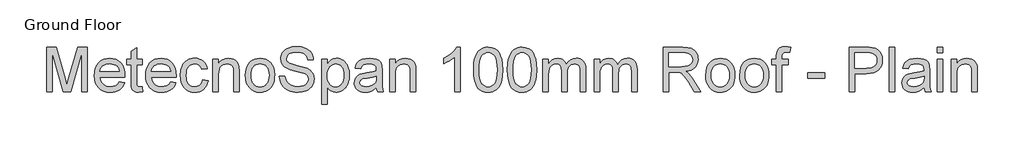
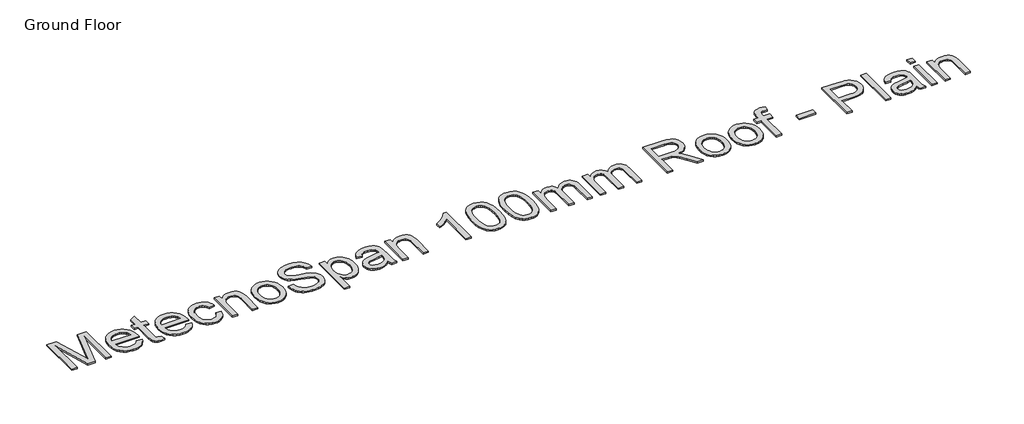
# One storey, part 8 of 14: 1 proxy.
"""IFC4 building model written with IfcOpenShell, lengths in millimetres."""

from ifc_helpers import new_model, si_unit, origin, origin_with_axes, place, context, project, spatial, polyline, outline, extrude, element, save

model = new_model("IFC4")

# Units and contexts
model_context = context("Model", 3, world=origin())
ifc_project = project(units=[si_unit("LENGTHUNIT", "METRE", prefix="MILLI")], contexts=[model_context])

# Site, building, storey
site = spatial("IfcSite", under=ifc_project)
building = spatial("IfcBuilding", under=site)
storey = spatial("IfcBuildingStorey", under=building, Name="Ground Floor", Elevation=0.0)

# Proxy
placement = place(None, origin())
element("IfcBuildingElementProxy", 1, Name="600mm Arial", ObjectType="600mm Arial", at=placement, inside=storey, context=model_context, shape_type="SweptSolid", body=[
    extrude(outline(polyline([(72437.1624792, -15207.4945964), (72437.1624792, -14604.7567355), (72566.8040943, -14604.7567355), (72690.1181391, -15029.5868635), (72714.986962, -15118.3200007), (72741.915924, -15022.2292236), (72863.1698296, -14604.7567355), (72992.8114447, -14604.7567355), (72992.8114447, -15207.4945964), (72917.4692121, -15207.4945964), (72917.4692121, -14680.0989681), (72766.0489829, -15207.4945964), (72663.924941, -15207.4945964), (72512.5047118, -14680.0989681), (72512.5047118, -15207.4945964), (72437.1624792, -15207.4945964)])), origin_with_axes(), (0.0, 0.0, 1.0), 20.0),
    extrude(outline(polyline([(73425.1463654, -15075.6456893), (73499.0170701, -15085.0634684), (73487.6909031, -15114.6503778), (73472.4008077, -15140.7240143), (73453.1467838, -15163.2843776), (73429.9288314, -15182.3314679), (73402.9860738, -15197.460615), (73372.5576342, -15208.2671486), (73338.6435128, -15214.7510687), (73301.2437095, -15216.9123755), (73254.4951049, -15213.1829717), (73212.841666, -15201.9947605), (73176.2833928, -15183.3477419), (73144.8202851, -15157.2419158), (73119.5192009, -15124.4038492), (73101.4469979, -15085.5601091), (73090.6036761, -15040.7106953), (73086.9892355, -14989.855608), (73090.6404643, -14937.2760739), (73101.5941507, -14890.9321395), (73119.8502947, -14850.823805), (73145.4088963, -14816.9510703), (73176.7892305, -14790.0405023), (73212.5105722, -14770.8186681), (73252.5729215, -14759.2855676), (73296.9762783, -14755.4412007), (73339.9494939, -14759.2763705), (73378.8116281, -14770.7818799), (73413.5626811, -14789.9577289), (73444.2026528, -14816.8039175), (73469.2140299, -14850.6030758), (73487.0792993, -14890.6378339), (73497.798461, -14936.9081919), (73501.3715148, -14989.4141496), (73500.9300564, -15009.7212358), (73162.3314681, -15009.7212358), (73166.6954683, -15039.7863918), (73175.3728848, -15066.1175456), (73188.3637178, -15088.7146972), (73205.6679671, -15107.5778465), (73226.3291397, -15122.4494761), (73249.3907422, -15133.0720688), (73274.8527748, -15139.4456243), (73302.7152374, -15141.5701428), (73342.8143749, -15137.6338055), (73376.5859421, -15125.8247934), (73404.0299389, -15105.4073427), (73425.1463654, -15075.6456893)]), holes=[polyline([(73162.3314681, -14934.3790032), (73426.0292822, -14934.3790032), (73415.838951, -14894.5741713), (73407.0741624, -14878.9207924), (73395.8629586, -14866.1001049), (73375.3167492, -14850.6490611), (73351.9378484, -14839.6126012), (73325.7262562, -14832.9907253), (73296.6819727, -14830.7834333), (73270.1898705, -14832.5446684), (73245.8958633, -14837.8283735), (73223.799951, -14846.6345488), (73203.9021335, -14858.9631941), (73187.2048895, -14874.2440925), (73174.7106972, -14891.9070268), (73166.4195568, -14911.951997), (73162.3314681, -14934.3790032)])]), origin_with_axes(), (0.0, 0.0, 1.0), 20.0),
    extrude(outline(polyline([(73736.8159918, -15144.6603516), (73746.2337708, -15209.7018883), (73689.8742492, -15216.9123755), (73653.711449, -15213.7853785), (73626.7456988, -15204.4043876), (73607.6894114, -15189.9466252), (73595.255, -15171.5893136), (73588.4123949, -15140.0618267), (73586.1315265, -15086.093538), (73586.1315265, -14840.2012124), (73529.6248521, -14840.2012124), (73529.6248521, -14764.8589798), (73586.1315265, -14764.8589798), (73586.1315265, -14657.2902844), (73661.4737591, -14612.9972922), (73661.4737591, -14764.8589798), (73736.8159918, -14764.8589798), (73736.8159918, -14840.2012124), (73661.4737591, -14840.2012124), (73661.4737591, -15083.886246), (73665.4468847, -15122.7345847), (73678.3227545, -15136.4933713), (73689.1936675, -15140.30095), (73704.0009178, -15141.5701428), (73736.8159918, -15144.6603516)])), origin_with_axes(), (0.0, 0.0, 1.0), 20.0),
    extrude(outline(polyline([(74122.0620171, -15075.6456893), (74195.9327217, -15085.0634684), (74184.6065548, -15114.6503778), (74169.3164594, -15140.7240143), (74150.0624355, -15163.2843776), (74126.844483, -15182.3314679), (74099.9017254, -15197.460615), (74069.4732859, -15208.2671486), (74035.5591645, -15214.7510687), (73998.1593611, -15216.9123755), (73951.4107566, -15213.1829717), (73909.7573177, -15201.9947605), (73873.1990444, -15183.3477419), (73841.7359368, -15157.2419158), (73816.4348526, -15124.4038492), (73798.3626495, -15085.5601091), (73787.5193277, -15040.7106953), (73783.9048871, -14989.855608), (73787.5561159, -14937.2760739), (73798.5098023, -14890.9321395), (73816.7659464, -14850.823805), (73842.324548, -14816.9510703), (73873.7048822, -14790.0405023), (73909.4262239, -14770.8186681), (73949.4885732, -14759.2855676), (73993.89193, -14755.4412007), (74036.8651455, -14759.2763705), (74075.7272798, -14770.7818799), (74110.4783328, -14789.9577289), (74141.1183045, -14816.8039175), (74166.1296816, -14850.6030758), (74183.994951, -14890.6378339), (74194.7141126, -14936.9081919), (74198.2871665, -14989.4141496), (74197.8457081, -15009.7212358), (73859.2471197, -15009.7212358), (73863.6111199, -15039.7863918), (73872.2885365, -15066.1175456), (73885.2793694, -15088.7146972), (73902.5836188, -15107.5778465), (73923.2447913, -15122.4494761), (73946.3063939, -15133.0720688), (73971.7684265, -15139.4456243), (73999.6308891, -15141.5701428), (74039.7300266, -15137.6338055), (74073.5015937, -15125.8247934), (74100.9455906, -15105.4073427), (74122.0620171, -15075.6456893)]), holes=[polyline([(73859.2471197, -14934.3790032), (74122.9449339, -14934.3790032), (74112.7546026, -14894.5741713), (74103.9898141, -14878.9207924), (74092.7786103, -14866.1001049), (74072.2324009, -14850.6490611), (74048.8535001, -14839.6126012), (74022.6419079, -14832.9907253), (73993.5976244, -14830.7834333), (73967.1055222, -14832.5446684), (73942.811515, -14837.8283735), (73920.7156026, -14846.6345488), (73900.8177852, -14858.9631941), (73884.1205411, -14874.2440925), (73871.6263489, -14891.9070268), (73863.3352084, -14911.951997), (73859.2471197, -14934.3790032)])]), origin_with_axes(), (0.0, 0.0, 1.0), 20.0),
    extrude(outline(polyline([(74556.1627714, -15047.3923521), (74631.505004, -15056.8101312), (74623.3104326, -15092.3613275), (74610.4989421, -15123.8198366), (74593.0705326, -15151.1856585), (74571.025204, -15174.4587932), (74545.2918585, -15193.0322354), (74516.7993979, -15206.2989799), (74485.5478224, -15214.2590266), (74451.537132, -15216.9123755), (74409.2812863, -15213.2105629), (74371.3940393, -15202.1051251), (74337.875391, -15183.5960623), (74308.7253415, -15157.6833742), (74285.13031, -15124.8545047), (74268.2767161, -15085.5968973), (74258.1645597, -15039.910552), (74254.793841, -14987.7954689), (74260.5511942, -14920.7489752), (74267.7478857, -14890.5780531), (74277.8232539, -14862.6420141), (74290.8462765, -14837.5018783), (74306.8859315, -14815.7186656), (74325.9422188, -14797.2923762), (74348.0151385, -14782.22301), (74372.1068107, -14770.5059684), (74397.2193554, -14762.136653), (74423.3527726, -14757.1150638), (74450.5070624, -14755.4412007), (74483.9337402, -14757.7404632), (74514.1690417, -14764.6382506), (74541.2129668, -14776.1345629), (74565.0655157, -14792.2294002), (74585.3220181, -14812.5548805), (74601.5778037, -14836.7431216), (74613.8328727, -14864.7941238), (74622.0872249, -14896.7078869), (74546.7449923, -14906.1256659), (74533.0781762, -14873.2554097), (74511.7962028, -14849.6925679), (74484.0762945, -14835.510717), (74451.0956736, -14830.7834333), (74425.4956852, -14833.1102869), (74402.4064915, -14840.0908478), (74381.8280924, -14851.7251159), (74363.7604879, -14868.0130912), (74349.0498067, -14889.3318528), (74338.5421772, -14916.0584798), (74332.2375995, -14948.1929721), (74330.1360736, -14985.7353297), (74332.1916142, -15023.8433059), (74338.3582362, -15056.3502787), (74348.6359394, -15083.2562481), (74363.0247239, -15104.5612141), (74380.7336435, -15120.7526204), (74400.9717517, -15132.3179107), (74423.7390487, -15139.2570848), (74449.0355344, -15141.5701428), (74488.04942, -15135.7943955), (74504.921408, -15128.5747114), (74520.0367595, -15118.4671535), (74532.9724101, -15105.3613575), (74543.3052957, -15089.1469585), (74551.0354161, -15069.8239567), (74556.1627714, -15047.3923521)])), origin_with_axes(), (0.0, 0.0, 1.0), 20.0),
    extrude(outline(polyline([(74697.4294576, -15207.4945964), (74697.4294576, -14764.8589798), (74772.7716902, -14764.8589798), (74772.7716902, -14826.663155), (74798.9464941, -14795.50355), (74830.3820106, -14773.2466893), (74867.0782396, -14759.8925728), (74909.0351812, -14755.4412007), (74946.1728686, -14759.0280502), (74980.1835591, -14769.7885985), (75008.5472609, -14786.3800765), (75028.7439824, -14807.4597148), (75042.4475867, -14832.9723312), (75051.3319369, -14862.8627433), (75055.3050625, -14935.7033783), (75055.3050625, -15207.4945964), (74979.9628299, -15207.4945964), (74979.9628299, -14945.8569214), (74977.7923261, -14906.8982181), (74971.2808148, -14879.1967039), (74959.2694676, -14859.3494702), (74940.5994564, -14843.9536087), (74916.6687326, -14834.0759772), (74888.8752478, -14830.7834333), (74865.9975863, -14832.6320403), (74844.7478025, -14838.1778614), (74825.1258966, -14847.4208965), (74807.1318685, -14860.3611457), (74792.0992905, -14878.4701369), (74781.3617348, -14903.2193982), (74774.9192013, -14934.6089294), (74772.7716902, -14972.6387307), (74772.7716902, -15207.4945964), (74697.4294576, -15207.4945964)])), origin_with_axes(), (0.0, 0.0, 1.0), 20.0),
    extrude(outline(polyline([(75140.0650742, -14986.1767881), (75144.1393673, -14928.8515762), (75156.3622465, -14879.4542213), (75176.733712, -14837.9847234), (75205.2537637, -14804.4430825), (75233.9669534, -14783.0047592), (75265.6599873, -14767.6916711), (75300.3328654, -14758.5038183), (75337.9855876, -14755.4412007), (75379.5516545, -14759.1706044), (75417.1353988, -14770.3588156), (75450.7368206, -14789.0058342), (75480.3559197, -14815.1116603), (75504.5303653, -14847.7933771), (75521.7978265, -14886.1680677), (75532.1583031, -14930.2357322), (75535.6117954, -14979.9963706), (75534.0850851, -15020.3254343), (75529.5049543, -15056.1111554), (75521.8714029, -15087.3535338), (75511.1844309, -15114.0525696), (75497.5773956, -15137.1141722), (75481.1836542, -15157.4442509), (75462.0032067, -15175.0428059), (75440.036053, -15189.909837), (75416.1375189, -15201.7234476), (75391.16293, -15210.1617408), (75365.1122862, -15215.2247168), (75337.9855876, -15216.9123755), (75295.8125153, -15213.1967673), (75257.8792831, -15202.0499428), (75224.1858909, -15183.4719021), (75194.7323386, -15157.462645), (75170.8154104, -15124.4636301), (75153.7318903, -15084.9163156), (75143.4817782, -15038.8207016), (75140.0650742, -14986.1767881)]), holes=[polyline([(75215.4073068, -14986.0296353), (75217.5870076, -15022.574113), (75224.1261101, -15054.2165631), (75235.0246142, -15080.9569856), (75250.2825199, -15102.7953805), (75268.8421666, -15119.7593391), (75289.6458934, -15131.8764523), (75312.6937004, -15139.1467202), (75337.9855876, -15141.5701428), (75363.148716, -15139.1329246), (75386.1045525, -15131.82127), (75406.8530971, -15119.6351789), (75425.3943496, -15102.5746514), (75440.6522554, -15080.5201257), (75451.5507595, -15053.3520404), (75458.0898619, -15021.0703953), (75460.2695628, -14983.6751905), (75458.0760664, -14948.2895411), (75451.4955772, -14917.4748255), (75440.5280952, -14891.2310436), (75425.1736204, -14869.5581956), (75406.56339, -14852.5942371), (75385.828641, -14840.4771239), (75362.9693736, -14833.206856), (75337.9855876, -14830.7834333), (75312.6937004, -14833.1976589), (75289.6458934, -14840.4403357), (75268.8421666, -14852.5114637), (75250.2825199, -14869.4110428), (75235.0246142, -14891.1850584), (75224.1261101, -14917.8794957), (75217.5870076, -14949.4943546), (75215.4073068, -14986.0296353)])]), origin_with_axes(), (0.0, 0.0, 1.0), 20.0),
    extrude(outline(polyline([(75601.5362489, -15000.3034567), (75676.8784815, -15000.3034567), (75685.5237084, -15042.1132454), (75701.1586932, -15075.7192657), (75725.5492695, -15102.3907104), (75760.4612708, -15123.3967723), (75803.1355823, -15137.0268002), (75850.8130888, -15141.5701428), (75892.7884245, -15138.1304462), (75929.5398358, -15127.8113562), (75959.3198833, -15111.4773956), (75980.3811275, -15089.9930871), (75992.9075095, -15065.3265993), (75997.0829701, -15039.446101), (75993.9559732, -15014.2277902), (75984.5749823, -14992.430782), (75965.5186949, -14973.8343471), (75933.3658086, -14958.2177564), (75823.6633976, -14929.4493844), (75751.650497, -14910.4114912), (75705.5732771, -14892.2933029), (75668.0677077, -14866.9462334), (75641.4882336, -14836.2280868), (75625.6509137, -14800.8010507), (75620.3718071, -14761.3273126), (75622.0042834, -14738.8911094), (75626.9017125, -14717.1998673), (75635.0640942, -14696.2535862), (75646.4914287, -14676.0522661), (75661.0549572, -14657.4190431), (75678.625921, -14641.177053), (75699.2043201, -14627.3262959), (75722.7901545, -14615.8667717), (75775.80195, -14600.4709102), (75834.4791283, -14595.3389564), (75898.049137, -14600.7100335), (75953.6728947, -14616.8232649), (75978.0082887, -14628.825415), (75999.3638385, -14643.3475568), (76017.7395441, -14660.3896902), (76033.1354056, -14679.9518153), (76045.4318613, -14701.463715), (76054.5093496, -14724.3551721), (76060.3678703, -14748.6261867), (76063.0074237, -14774.2767589), (75987.665191, -14774.2767589), (75982.6252077, -14750.2356705), (75973.832828, -14729.321579), (75961.288052, -14711.5344846), (75944.9908796, -14696.8743871), (75924.6378082, -14685.4148629), (75899.9253352, -14677.2294885), (75870.8534605, -14672.3182639), (75837.4221842, -14670.681189), (75802.9240501, -14672.2998698), (75773.4475053, -14677.1559121), (75748.9925496, -14685.249316), (75729.5591832, -14696.5800815), (75714.7519329, -14710.2009123), (75704.1753256, -14725.1645125), (75697.8293611, -14741.4708819), (75695.7140397, -14759.1200207), (75697.2131588, -14774.30435), (75701.7105162, -14788.0723337), (75709.2061118, -14800.4239717), (75719.6999458, -14811.359264), (75736.2178473, -14821.7151421), (75762.2271044, -14832.1813849), (75842.7196849, -14853.4449642), (75925.7874395, -14873.6416858), (75976.04012, -14891.2632333), (76018.9903429, -14918.5968656), (76035.5956165, -14934.6641117), (76048.9543314, -14952.3316445), (76059.2228376, -14971.5074935), (76066.5574849, -14992.0996882), (76072.4252027, -15037.5331146), (76070.7375441, -15061.1005549), (76065.6745681, -15083.9782165), (76057.2362749, -15106.1660993), (76045.4226643, -15127.6642034), (76030.44067, -15147.6401958), (76012.4972257, -15165.2617433), (75991.5923313, -15180.5288461), (75967.7259869, -15193.4415042), (75941.5925697, -15203.7100104), (75913.8864569, -15211.0446576), (75853.7561448, -15216.9123755), (75815.2159073, -15215.3304829), (75779.9406225, -15210.5848051), (75747.9302904, -15202.6753422), (75719.184911, -15191.6020942), (75693.5297403, -15177.3466669), (75670.7900345, -15159.8906662), (75650.9657935, -15139.2340922), (75634.0570173, -15115.3769448), (75620.4361864, -15089.0917762), (75610.4757814, -15061.1511387), (75604.1758022, -15031.5550322), (75601.5362489, -15000.3034567)])), origin_with_axes(), (0.0, 0.0, 1.0), 20.0),
    extrude(outline(polyline([(76176.0207726, -15377.0146198), (76176.0207726, -14764.8589798), (76251.3630052, -14764.8589798), (76251.3630052, -14838.7296844), (76275.9375225, -14802.2909728), (76303.4550957, -14776.2633216), (76335.5344057, -14760.6467309), (76373.7941332, -14755.4412007), (76400.0701047, -14757.2622166), (76424.7457895, -14762.7252642), (76447.8211877, -14771.8303436), (76469.2962991, -14784.5774547), (76488.7020744, -14800.6355038), (76505.5694639, -14819.6733971), (76519.8984676, -14841.6911345), (76531.6890855, -14866.688716), (76547.4712231, -14922.2021091), (76552.7319356, -14982.7922737), (76546.7906414, -15047.2268052), (76539.3640236, -15076.8918896), (76528.9667587, -15104.8555197), (76515.741401, -15130.3865302), (76499.8305047, -15152.7537555), (76481.2340699, -15171.9571956), (76459.9520965, -15187.9968506), (76437.0284496, -15200.6473927), (76413.5069946, -15209.6834942), (76389.3877313, -15215.1051552), (76364.6706597, -15216.9123755), (76330.0345699, -15212.0747272), (76299.1140882, -15197.5617825), (76272.6449786, -15175.6544097), (76251.3630052, -15148.6334771), (76251.3630052, -15377.0146198), (76176.0207726, -15377.0146198)]), holes=[polyline([(76251.3630052, -14989.7084552), (76253.4001517, -15026.0184082), (76259.5115914, -15057.2515895), (76269.6973241, -15083.4079994), (76283.95735, -15104.4876377), (76301.1236436, -15120.7112337), (76320.0281796, -15132.2995166), (76340.670958, -15139.2524863), (76363.0519789, -15141.5701428), (76385.7548965, -15139.1697128), (76406.774754, -15131.9684228), (76426.1115514, -15119.9662727), (76443.7652887, -15103.1632625), (76458.4759699, -15081.3202691), (76468.9835994, -15054.198169), (76475.2881771, -15021.7969623), (76477.389703, -14984.1166489), (76475.3387609, -14948.1193957), (76469.1859345, -14916.9413966), (76458.9312239, -14890.5826516), (76444.5746291, -14869.0431608), (76427.3669487, -14852.30453), (76408.5589817, -14840.3483652), (76388.150728, -14833.1746663), (76366.1421877, -14830.7834333), (76344.2026252, -14833.3264176), (76323.5598467, -14840.9553705), (76304.2138523, -14853.6702919), (76286.1646419, -14871.471182), (76270.9389259, -14894.1189173), (76260.0634144, -14921.3743746), (76253.5381075, -14953.2375539), (76251.3630052, -14989.7084552)])]), origin_with_axes(), (0.0, 0.0, 1.0), 20.0),
    extrude(outline(polyline([(76920.0253196, -15150.9879219), (76884.0280664, -15181.8532213), (76846.9639554, -15202.0499428), (76807.986858, -15213.1967673), (76766.2506456, -15216.9123755), (76732.7044062, -15214.6774923), (76703.2876422, -15207.972843), (76678.0003535, -15196.7984274), (76656.8425403, -15181.1542455), (76640.1360992, -15162.0335788), (76628.2029269, -15140.4297087), (76621.0430236, -15116.342635), (76618.6563892, -15089.7723579), (76622.2616327, -15058.5391765), (76633.0773634, -15030.1754747), (76649.7608119, -15005.895263), (76670.9692089, -14986.9125521), (76695.8932141, -14972.5651543), (76723.723487, -14962.190882), (76788.9121765, -14950.8601165), (76865.9466663, -14938.9407399), (76919.5838612, -14924.9612241), (76920.0253196, -14908.1858051), (76914.8381835, -14874.5613907), (76908.3542633, -14862.1085852), (76899.2767751, -14852.5620474), (76883.586608, -14843.0339038), (76864.4751383, -14836.2280868), (76815.9882914, -14830.7834333), (76771.106688, -14834.407071), (76739.763142, -14845.2779839), (76718.3891981, -14865.382735), (76703.4164009, -14896.7078869), (76628.0741682, -14887.2901078), (76641.1523732, -14846.0873243), (76660.668513, -14813.7137087), (76688.4436037, -14788.9552505), (76726.298661, -14770.5979389), (76772.5966101, -14759.2303853), (76825.7003761, -14755.4412007), (76876.6336383, -14758.7889269), (76917.0086873, -14768.8321053), (76947.4509224, -14783.9336612), (76968.585743, -14802.4565197), (76982.602047, -14825.3571739), (76991.6887323, -14853.592117), (76995.3675522, -14919.5165706), (76995.3675522, -15013.2529029), (76999.193525, -15144.1453168), (77004.8589077, -15176.5005383), (77014.2031104, -15207.4945964), (76938.8608778, -15207.4945964), (76926.7943483, -15181.3013983), (76920.0253196, -15150.9879219)]), holes=[polyline([(76920.0253196, -15000.3034567), (76869.4047571, -15012.8482327), (76798.4771084, -15023.406446), (76733.6563009, -15035.6201282), (76716.7889114, -15043.9710495), (76704.2993176, -15055.485756), (76696.5737957, -15069.2813308), (76693.9986218, -15084.4748572), (76699.6088222, -15106.8788707), (76716.4394235, -15125.2361823), (76744.1225436, -15137.4866527), (76782.2903006, -15141.5701428), (76822.7573201, -15137.0635884), (76858.51545, -15123.5439251), (76887.5045512, -15103.623115), (76907.6644846, -15079.9131204), (76916.6040171, -15055.485756), (76919.5838612, -15021.6406124), (76920.0253196, -15000.3034567)])]), origin_with_axes(), (0.0, 0.0, 1.0), 20.0),
    extrude(outline(polyline([(77098.9631221, -15207.4945964), (77098.9631221, -14764.8589798), (77174.3053547, -14764.8589798), (77174.3053547, -14826.663155), (77200.4801586, -14795.50355), (77231.9156751, -14773.2466893), (77268.6119041, -14759.8925728), (77310.5688457, -14755.4412007), (77347.7065331, -14759.0280502), (77381.7172236, -14769.7885985), (77410.0809254, -14786.3800765), (77430.2776469, -14807.4597148), (77443.9812512, -14832.9723312), (77452.8656014, -14862.8627433), (77456.838727, -14935.7033783), (77456.838727, -15207.4945964), (77381.4964944, -15207.4945964), (77381.4964944, -14945.8569214), (77379.3259906, -14906.8982181), (77372.8144793, -14879.1967039), (77360.8031321, -14859.3494702), (77342.1331209, -14843.9536087), (77318.2023971, -14834.0759772), (77290.4089124, -14830.7834333), (77267.5312508, -14832.6320403), (77246.281467, -14838.1778614), (77226.6595611, -14847.4208965), (77208.665533, -14860.3611457), (77193.632955, -14878.4701369), (77182.8953993, -14903.2193982), (77176.4528658, -14934.6089294), (77174.3053547, -14972.6387307), (77174.3053547, -15207.4945964), (77098.9631221, -15207.4945964)])), origin_with_axes(), (0.0, 0.0, 1.0), 20.0),
    extrude(outline(polyline([(78059.5765879, -15207.4945964), (77984.2343553, -15207.4945964), (77984.2343553, -14737.7828649), (77952.7804447, -14763.2219049), (77912.8652482, -14788.6241567), (77870.963489, -14810.8258351), (77833.54989, -14826.663155), (77833.54989, -14755.4412007), (77892.723709, -14723.2515261), (77943.988065, -14684.9550104), (77984.3999022, -14644.2304736), (78011.0161645, -14604.7567355), (78059.5765879, -14604.7567355), (78059.5765879, -15207.4945964)])), origin_with_axes(), (0.0, 0.0, 1.0), 20.0),
    extrude(outline(polyline([(78238.5143903, -14910.9817083), (78244.0510144, -14814.504655), (78250.9717944, -14773.5915786), (78260.6608864, -14737.5621357), (78273.0769038, -14706.1220207), (78288.1784597, -14678.976928), (78305.9655541, -14656.1268576), (78326.4381872, -14637.5718094), (78349.6653367, -14623.2152146), (78375.7159804, -14612.960504), (78404.5901185, -14606.8076776), (78436.2877509, -14604.7567355), (78482.7144587, -14609.6127778), (78524.2851242, -14624.1809048), (78559.0499727, -14647.8908994), (78585.0592298, -14680.1725445), (78604.7041283, -14720.7499286), (78620.3759013, -14769.3471401), (78630.639809, -14831.0593448), (78634.0611115, -14910.9817083), (78628.5796698, -15006.9069385), (78621.7278677, -15047.6820591), (78612.1353446, -15083.6655168), (78599.8158963, -15115.1194274), (78584.7833183, -15142.3059068), (78567.0376106, -15165.2249551), (78546.5787731, -15183.8765723), (78523.3240325, -15198.3297362), (78497.1906152, -15208.6534247), (78468.1785214, -15214.8476378), (78436.2877509, -15216.9123755), (78394.7906619, -15213.325526), (78358.0024624, -15202.5649776), (78325.9231524, -15184.6307304), (78298.5527319, -15159.5227842), (78272.2859575, -15114.135343), (78253.5239757, -15057.5826833), (78242.2667867, -14989.8648051), (78238.5143903, -14910.9817083)]), holes=[polyline([(78313.8566229, -14910.8345555), (78316.0639149, -14976.3313462), (78322.6857908, -15029.3477402), (78333.7222507, -15069.8837376), (78349.1732945, -15097.9393382), (78367.8616998, -15117.0278152), (78388.6102444, -15130.6624417), (78411.4189281, -15138.8432176), (78436.2877509, -15141.5701428), (78461.1565738, -15138.8340205), (78483.9652575, -15130.6256535), (78504.713802, -15116.9450418), (78523.4022074, -15097.7921854), (78538.8532512, -15069.6905995), (78549.8897111, -15029.1637992), (78556.511587, -14976.2117845), (78558.7188789, -14910.8345555), (78556.5851634, -14847.0714087), (78550.1840166, -14794.9885152), (78539.5154388, -14754.5858751), (78524.5794298, -14725.8634883), (78506.2037241, -14705.8415107), (78485.2160563, -14691.5400981), (78461.6164263, -14682.9592506), (78435.4048342, -14680.0989681), (78410.66477, -14682.6189598), (78388.2423624, -14690.1789348), (78368.1376113, -14702.7788931), (78350.3505169, -14720.4188348), (78334.3844383, -14751.6888044), (78322.9800964, -14793.848081), (78316.1374913, -14846.8966647), (78313.8566229, -14910.8345555)])]), origin_with_axes(), (0.0, 0.0, 1.0), 20.0),
    extrude(outline(polyline([(78699.9855651, -14910.9817083), (78705.5221891, -14814.504655), (78712.4429691, -14773.5915786), (78722.1320612, -14737.5621357), (78734.5480785, -14706.1220207), (78749.6496344, -14678.976928), (78767.4367289, -14656.1268576), (78787.9093619, -14637.5718094), (78811.1365114, -14623.2152146), (78837.1871552, -14612.960504), (78866.0612933, -14606.8076776), (78897.7589257, -14604.7567355), (78944.1856335, -14609.6127778), (78985.7562989, -14624.1809048), (79020.5211475, -14647.8908994), (79046.5304045, -14680.1725445), (79066.1753031, -14720.7499286), (79081.8470761, -14769.3471401), (79092.1109837, -14831.0593448), (79095.5322863, -14910.9817083), (79090.0508446, -15006.9069385), (79083.1990424, -15047.6820591), (79073.6065194, -15083.6655168), (79061.2870711, -15115.1194274), (79046.254493, -15142.3059068), (79028.5087853, -15165.2249551), (79008.0499478, -15183.8765723), (78984.7952072, -15198.3297362), (78958.66179, -15208.6534247), (78929.6496961, -15214.8476378), (78897.7589257, -15216.9123755), (78856.2618366, -15213.325526), (78819.4736371, -15202.5649776), (78787.3943271, -15184.6307304), (78760.0239067, -15159.5227842), (78733.7571322, -15114.135343), (78714.9951505, -15057.5826833), (78703.7379614, -14989.8648051), (78699.9855651, -14910.9817083)]), holes=[polyline([(78775.3277977, -14910.8345555), (78777.5350897, -14976.3313462), (78784.1569656, -15029.3477402), (78795.1934254, -15069.8837376), (78810.6444692, -15097.9393382), (78829.3328746, -15117.0278152), (78850.0814191, -15130.6624417), (78872.8901028, -15138.8432176), (78897.7589257, -15141.5701428), (78922.6277486, -15138.8340205), (78945.4364323, -15130.6256535), (78966.1849768, -15116.9450418), (78984.8733821, -15097.7921854), (79000.3244259, -15069.6905995), (79011.3608858, -15029.1637992), (79017.9827617, -14976.2117845), (79020.1900537, -14910.8345555), (79018.0563381, -14847.0714087), (79011.6551914, -14794.9885152), (79000.9866135, -14754.5858751), (78986.0506045, -14725.8634883), (78967.6748989, -14705.8415107), (78946.687231, -14691.5400981), (78923.0876011, -14682.9592506), (78896.8760089, -14680.0989681), (78872.1359447, -14682.6189598), (78849.7135371, -14690.1789348), (78829.6087861, -14702.7788931), (78811.8216916, -14720.4188348), (78795.855613, -14751.6888044), (78784.4512712, -14793.848081), (78777.6086661, -14846.8966647), (78775.3277977, -14910.8345555)])]), origin_with_axes(), (0.0, 0.0, 1.0), 20.0),
    extrude(outline(polyline([(79180.292298, -15207.4945964), (79180.292298, -14764.8589798), (79255.6345306, -14764.8589798), (79255.6345306, -14837.6996148), (79278.2960615, -14804.2407474), (79307.4323155, -14778.0291552), (79342.0500113, -14761.0881893), (79381.1558674, -14755.4412007), (79423.0576266, -14761.1985539), (79440.8907063, -14768.3952455), (79456.6452528, -14778.4706136), (79481.7348048, -14806.1169455), (79498.1423418, -14842.9971156), (79525.6047328, -14804.6914028), (79556.9298846, -14777.3301794), (79592.1177975, -14760.9134454), (79631.1684713, -14755.4412007), (79661.3301964, -14757.7174705), (79687.8039044, -14764.5462801), (79710.5895955, -14775.9276293), (79729.6872696, -14791.8615182), (79744.784227, -14812.5318878), (79755.5677679, -14838.1226791), (79762.0378925, -14868.6338921), (79764.1946007, -14904.0655268), (79764.1946007, -15207.4945964), (79688.8523681, -15207.4945964), (79688.8523681, -14936.4391423), (79687.1049286, -14898.8599965), (79681.8626102, -14873.5313212), (79672.0401609, -14856.1856851), (79656.5523289, -14842.5556572), (79636.6315189, -14833.7264893), (79613.5101355, -14830.7834333), (79592.1591842, -14832.6688285), (79572.6936281, -14838.3250142), (79555.1134673, -14847.7519903), (79539.4187017, -14860.9497569), (79526.5106422, -14878.30459), (79517.2905997, -14900.2027658), (79511.7585742, -14926.6442842), (79509.9145657, -14957.6291453), (79509.9145657, -15207.4945964), (79434.5723331, -15207.4945964), (79434.5723331, -14928.0514328), (79430.2129314, -14885.4506978), (79424.7636794, -14868.7304611), (79417.1347265, -14855.063645), (79407.0225701, -14844.4410524), (79394.1237077, -14836.8534862), (79378.4381391, -14832.3009465), (79359.9658644, -14830.7834333), (79330.939975, -14834.8301353), (79304.194954, -14846.9702411), (79282.1220343, -14866.9094452), (79267.1124488, -14894.3534421), (79258.5040102, -14932.4292286), (79255.6345306, -14984.2638017), (79255.6345306, -15207.4945964), (79180.292298, -15207.4945964)])), origin_with_axes(), (0.0, 0.0, 1.0), 20.0),
    extrude(outline(polyline([(79877.2079496, -15207.4945964), (79877.2079496, -14764.8589798), (79952.5501823, -14764.8589798), (79952.5501823, -14837.6996148), (79975.2117132, -14804.2407474), (80004.3479672, -14778.0291552), (80038.9656629, -14761.0881893), (80078.071519, -14755.4412007), (80119.9732783, -14761.1985539), (80137.806358, -14768.3952455), (80153.5609044, -14778.4706136), (80178.6504565, -14806.1169455), (80195.0579935, -14842.9971156), (80222.5203844, -14804.6914028), (80253.8455363, -14777.3301794), (80289.0334491, -14760.9134454), (80328.0841229, -14755.4412007), (80358.245848, -14757.7174705), (80384.7195561, -14764.5462801), (80407.5052472, -14775.9276293), (80426.6029212, -14791.8615182), (80441.6998786, -14812.5318878), (80452.4834196, -14838.1226791), (80458.9535442, -14868.6338921), (80461.1102524, -14904.0655268), (80461.1102524, -15207.4945964), (80385.7680198, -15207.4945964), (80385.7680198, -14936.4391423), (80384.0205803, -14898.8599965), (80378.7782619, -14873.5313212), (80368.9558126, -14856.1856851), (80353.4679806, -14842.5556572), (80333.5471706, -14833.7264893), (80310.4257872, -14830.7834333), (80289.0748359, -14832.6688285), (80269.6092798, -14838.3250142), (80252.029119, -14847.7519903), (80236.3343533, -14860.9497569), (80223.4262938, -14878.30459), (80214.2062513, -14900.2027658), (80208.6742258, -14926.6442842), (80206.8302173, -14957.6291453), (80206.8302173, -15207.4945964), (80131.4879847, -15207.4945964), (80131.4879847, -14928.0514328), (80127.1285831, -14885.4506978), (80121.679331, -14868.7304611), (80114.0503781, -14855.063645), (80103.9382218, -14844.4410524), (80091.0393593, -14836.8534862), (80075.3537908, -14832.3009465), (80056.8815161, -14830.7834333), (80027.8556267, -14834.8301353), (80001.1106056, -14846.9702411), (79979.0376859, -14866.9094452), (79964.0281005, -14894.3534421), (79955.4196618, -14932.4292286), (79952.5501823, -14984.2638017), (79952.5501823, -15207.4945964), (79877.2079496, -15207.4945964)])), origin_with_axes(), (0.0, 0.0, 1.0), 20.0),
    extrude(outline(polyline([(80818.9858573, -15207.4945964), (80818.9858573, -14604.7567355), (81078.7105459, -14604.7567355), (81148.5161545, -14608.8218315), (81199.3022639, -14621.0171197), (81218.9011772, -14630.7108102), (81236.4215572, -14643.5314978), (81251.863404, -14659.4791823), (81265.2267175, -14678.5538637), (81276.0102584, -14699.7300711), (81283.7127877, -14721.9823332), (81288.3343053, -14745.3106503), (81289.8748111, -14769.7150221), (81287.3226298, -14800.672292), (81279.6660858, -14829.0911761), (81266.9051791, -14854.9716745), (81249.0399097, -14878.3137871), (81225.8403513, -14898.3725529), (81197.0765778, -14914.4030108), (81162.7485892, -14926.4051609), (81122.8563853, -14934.3790032), (81147.68842, -14950.6025991), (81165.6778496, -14966.6054659), (81196.543149, -15003.2097245), (81226.7462608, -15044.1549905), (81327.2516218, -15207.4945964), (81239.695707, -15207.4945964), (81161.2632656, -15082.5618708), (81104.6094384, -14999.8619983), (81083.5481941, -14975.7473335), (81064.8046065, -14960.7929304), (81028.9729001, -14946.4455326), (80985.2685191, -14943.7967822), (80894.3280899, -14943.7967822), (80894.3280899, -15207.4945964), (80818.9858573, -15207.4945964)]), holes=[polyline([(80894.3280899, -14868.4545496), (81062.9651965, -14868.4545496), (81111.3968612, -14865.7874052), (81148.976007, -14857.7859718), (81177.2661324, -14843.9168205), (81197.8307359, -14823.6465226), (81210.3571179, -14799.1271876), (81214.5325785, -14772.5109253), (81212.5414172, -14753.2431058), (81206.5679333, -14735.759514), (81196.6121268, -14720.0601498), (81182.6739977, -14706.1450133), (81164.4316493, -14694.7498685), (81141.5631848, -14686.6104794), (81114.0686042, -14681.7268459), (81081.9479075, -14680.0989681), (80894.3280899, -14680.0989681), (80894.3280899, -14868.4545496)])]), origin_with_axes(), (0.0, 0.0, 1.0), 20.0),
    extrude(outline(polyline([(81393.470381, -14986.1767881), (81397.5446741, -14928.8515762), (81409.7675534, -14879.4542213), (81430.1390188, -14837.9847234), (81458.6590705, -14804.4430825), (81487.3722602, -14783.0047592), (81519.0652941, -14767.6916711), (81553.7381722, -14758.5038183), (81591.3908944, -14755.4412007), (81632.9569613, -14759.1706044), (81670.5407056, -14770.3588156), (81704.1421274, -14789.0058342), (81733.7612265, -14815.1116603), (81757.9356721, -14847.7933771), (81775.2031333, -14886.1680677), (81785.56361, -14930.2357322), (81789.0171022, -14979.9963706), (81787.4903919, -15020.3254343), (81782.9102611, -15056.1111554), (81775.2767097, -15087.3535338), (81764.5897377, -15114.0525696), (81750.9827024, -15137.1141722), (81734.588961, -15157.4442509), (81715.4085135, -15175.0428059), (81693.4413598, -15189.909837), (81669.5428257, -15201.7234476), (81644.5682368, -15210.1617408), (81618.517593, -15215.2247168), (81591.3908944, -15216.9123755), (81549.2178222, -15213.1967673), (81511.2845899, -15202.0499428), (81477.5911977, -15183.4719021), (81448.1376455, -15157.462645), (81424.2207172, -15124.4636301), (81407.1371971, -15084.9163156), (81396.887085, -15038.8207016), (81393.470381, -14986.1767881)]), holes=[polyline([(81468.8126136, -14986.0296353), (81470.9923144, -15022.574113), (81477.5314169, -15054.2165631), (81488.429921, -15080.9569856), (81503.6878267, -15102.7953805), (81522.2474734, -15119.7593391), (81543.0512002, -15131.8764523), (81566.0990072, -15139.1467202), (81591.3908944, -15141.5701428), (81616.5540228, -15139.1329246), (81639.5098593, -15131.82127), (81660.2584039, -15119.6351789), (81678.7996564, -15102.5746514), (81694.0575622, -15080.5201257), (81704.9560663, -15053.3520404), (81711.4951687, -15021.0703953), (81713.6748696, -14983.6751905), (81711.4813732, -14948.2895411), (81704.900884, -14917.4748255), (81693.933402, -14891.2310436), (81678.5789272, -14869.5581956), (81659.9686968, -14852.5942371), (81639.2339478, -14840.4771239), (81616.3746804, -14833.206856), (81591.3908944, -14830.7834333), (81566.0990072, -14833.1976589), (81543.0512002, -14840.4403357), (81522.2474734, -14852.5114637), (81503.6878267, -14869.4110428), (81488.429921, -14891.1850584), (81477.5314169, -14917.8794957), (81470.9923144, -14949.4943546), (81468.8126136, -14986.0296353)])]), origin_with_axes(), (0.0, 0.0, 1.0), 20.0),
    extrude(outline(polyline([(81854.9415557, -14986.1767881), (81859.0158488, -14928.8515762), (81871.2387281, -14879.4542213), (81891.6101936, -14837.9847234), (81920.1302453, -14804.4430825), (81948.843435, -14783.0047592), (81980.5364689, -14767.6916711), (82015.2093469, -14758.5038183), (82052.8620691, -14755.4412007), (82094.4281361, -14759.1706044), (82132.0118804, -14770.3588156), (82165.6133021, -14789.0058342), (82195.2324013, -14815.1116603), (82219.4068469, -14847.7933771), (82236.674308, -14886.1680677), (82247.0347847, -14930.2357322), (82250.4882769, -14979.9963706), (82248.9615667, -15020.3254343), (82244.3814358, -15056.1111554), (82236.7478844, -15087.3535338), (82226.0609125, -15114.0525696), (82212.4538772, -15137.1141722), (82196.0601357, -15157.4442509), (82176.8796882, -15175.0428059), (82154.9125346, -15189.909837), (82131.0140005, -15201.7234476), (82106.0394115, -15210.1617408), (82079.9887677, -15215.2247168), (82052.8620691, -15216.9123755), (82010.6889969, -15213.1967673), (81972.7557647, -15202.0499428), (81939.0623724, -15183.4719021), (81909.6088202, -15157.462645), (81885.691892, -15124.4636301), (81868.6083718, -15084.9163156), (81858.3582597, -15038.8207016), (81854.9415557, -14986.1767881)]), holes=[polyline([(81930.2837883, -14986.0296353), (81932.4634892, -15022.574113), (81939.0025916, -15054.2165631), (81949.9010957, -15080.9569856), (81965.1590015, -15102.7953805), (81983.7186481, -15119.7593391), (82004.522375, -15131.8764523), (82027.570182, -15139.1467202), (82052.8620691, -15141.5701428), (82078.0251976, -15139.1329246), (82100.9810341, -15131.82127), (82121.7295786, -15119.6351789), (82140.2708312, -15102.5746514), (82155.5287369, -15080.5201257), (82166.427241, -15053.3520404), (82172.9663435, -15021.0703953), (82175.1460443, -14983.6751905), (82172.9525479, -14948.2895411), (82166.3720587, -14917.4748255), (82155.4045768, -14891.2310436), (82140.050102, -14869.5581956), (82121.4398715, -14852.5942371), (82100.7051226, -14840.4771239), (82077.8458551, -14833.206856), (82052.8620691, -14830.7834333), (82027.570182, -14833.1976589), (82004.522375, -14840.4403357), (81983.7186481, -14852.5114637), (81965.1590015, -14869.4110428), (81949.9010957, -14891.1850584), (81939.0025916, -14917.8794957), (81932.4634892, -14949.4943546), (81930.2837883, -14986.0296353)])]), origin_with_axes(), (0.0, 0.0, 1.0), 20.0),
    extrude(outline(polyline([(82354.0838468, -15207.4945964), (82354.0838468, -14840.2012124), (82288.1593932, -14840.2012124), (82288.1593932, -14764.8589798), (82354.0838468, -14764.8589798), (82354.0838468, -14720.271682), (82356.0704095, -14683.3731178), (82362.0300979, -14657.4374372), (82377.1868361, -14632.3846733), (82400.584131, -14612.5558338), (82433.3256285, -14599.6431757), (82476.5149748, -14595.3389564), (82509.2196841, -14597.3990956), (82545.2353315, -14603.5795131), (82534.1988716, -14674.2128562), (82490.7887962, -14670.681189), (82462.1491829, -14673.808186), (82443.3320188, -14683.1891768), (82432.9025642, -14701.10503), (82429.4260794, -14729.8366138), (82429.4260794, -14764.8589798), (82514.1860911, -14764.8589798), (82514.1860911, -14840.2012124), (82429.4260794, -14840.2012124), (82429.4260794, -15207.4945964), (82354.0838468, -15207.4945964)])), origin_with_axes(), (0.0, 0.0, 1.0), 20.0),
    extrude(outline(polyline([(82777.8839052, -15028.5567939), (82777.8839052, -14953.2145613), (83013.3283821, -14953.2145613), (83013.3283821, -15028.5567939), (82777.8839052, -15028.5567939)])), origin_with_axes(), (0.0, 0.0, 1.0), 20.0),
    extrude(outline(polyline([(83342.9506498, -15207.4945964), (83342.9506498, -14604.7567355), (83566.3285973, -14604.7567355), (83618.3471114, -14606.1914753), (83656.3861097, -14610.4956946), (83696.5404295, -14621.2194548), (83729.5946267, -14638.6754554), (83756.2108891, -14663.6546429), (83777.0514041, -14696.9479635), (83790.5158851, -14736.2193665), (83795.0040455, -14779.1328012), (83791.9736175, -14816.1325329), (83782.8823337, -14850.1708145), (83767.7301941, -14881.247646), (83746.5171985, -14909.3630275), (83717.3947401, -14932.6683519), (83678.5142117, -14949.3150122), (83629.8756134, -14959.3030083), (83571.4789452, -14962.6323404), (83418.2928824, -14962.6323404), (83418.2928824, -15207.4945964), (83342.9506498, -15207.4945964)]), holes=[polyline([(83418.2928824, -14887.2901078), (83575.8935292, -14887.2901078), (83612.1299057, -14885.5610624), (83642.7008995, -14880.3739263), (83667.6065106, -14871.7286994), (83686.8467389, -14859.6253817), (83701.2033338, -14844.3858701), (83711.4580444, -14826.3320612), (83717.6108707, -14805.463955), (83719.6618129, -14781.7815516), (83714.8241646, -14747.936408), (83700.3112199, -14719.3887652), (83677.9256005, -14697.9044567), (83649.4699282, -14685.249316), (83620.4072506, -14681.3865551), (83574.1276956, -14680.0989681), (83418.2928824, -14680.0989681), (83418.2928824, -14887.2901078)])]), origin_with_axes(), (0.0, 0.0, 1.0), 20.0),
    extrude(outline(polyline([(83889.1818362, -15207.4945964), (83889.1818362, -14604.7567355), (83964.5240689, -14604.7567355), (83964.5240689, -15207.4945964), (83889.1818362, -15207.4945964)])), origin_with_axes(), (0.0, 0.0, 1.0), 20.0),
    extrude(outline(polyline([(84360.0707901, -15150.9879219), (84324.0735368, -15181.8532213), (84287.0094258, -15202.0499428), (84248.0323284, -15213.1967673), (84206.2961161, -15216.9123755), (84172.7498767, -15214.6774923), (84143.3331126, -15207.972843), (84118.045824, -15196.7984274), (84096.8880107, -15181.1542455), (84080.1815696, -15162.0335788), (84068.2483974, -15140.4297087), (84061.0884941, -15116.342635), (84058.7018596, -15089.7723579), (84062.3071032, -15058.5391765), (84073.1228338, -15030.1754747), (84089.8062823, -15005.895263), (84111.0146793, -14986.9125521), (84135.9386845, -14972.5651543), (84163.7689574, -14962.190882), (84228.957647, -14950.8601165), (84305.9921368, -14938.9407399), (84359.6293317, -14924.9612241), (84360.0707901, -14908.1858051), (84354.8836539, -14874.5613907), (84348.3997338, -14862.1085852), (84339.3222455, -14852.5620474), (84323.6320785, -14843.0339038), (84304.5206088, -14836.2280868), (84256.0337618, -14830.7834333), (84211.1521584, -14834.407071), (84179.8086124, -14845.2779839), (84158.4346685, -14865.382735), (84143.4618713, -14896.7078869), (84068.1196387, -14887.2901078), (84081.1978436, -14846.0873243), (84100.7139835, -14813.7137087), (84128.4890741, -14788.9552505), (84166.3441314, -14770.5979389), (84212.6420805, -14759.2303853), (84265.7458465, -14755.4412007), (84316.6791087, -14758.7889269), (84357.0541577, -14768.8321053), (84387.4963928, -14783.9336612), (84408.6312134, -14802.4565197), (84422.6475175, -14825.3571739), (84431.7342027, -14853.592117), (84435.4130227, -14919.5165706), (84435.4130227, -15013.2529029), (84439.2389954, -15144.1453168), (84444.9043782, -15176.5005383), (84454.2485808, -15207.4945964), (84378.9063482, -15207.4945964), (84366.8398188, -15181.3013983), (84360.0707901, -15150.9879219)]), holes=[polyline([(84360.0707901, -15000.3034567), (84309.4502275, -15012.8482327), (84238.5225789, -15023.406446), (84173.7017713, -15035.6201282), (84156.8343818, -15043.9710495), (84144.3447881, -15055.485756), (84136.6192662, -15069.2813308), (84134.0440922, -15084.4748572), (84139.6542927, -15106.8788707), (84156.4848939, -15125.2361823), (84184.1680141, -15137.4866527), (84222.3357711, -15141.5701428), (84262.8027905, -15137.0635884), (84298.5609205, -15123.5439251), (84327.5500217, -15103.623115), (84347.709955, -15079.9131204), (84356.6494875, -15055.485756), (84359.6293317, -15021.6406124), (84360.0707901, -15000.3034567)])]), origin_with_axes(), (0.0, 0.0, 1.0), 20.0),
    extrude(outline(polyline([(84539.0085925, -14680.0989681), (84539.0085925, -14604.7567355), (84614.3508251, -14604.7567355), (84614.3508251, -14680.0989681), (84539.0085925, -14680.0989681)])), origin_with_axes(), (0.0, 0.0, 1.0), 20.0),
    extrude(outline(polyline([(84539.0085925, -15207.4945964), (84539.0085925, -14764.8589798), (84614.3508251, -14764.8589798), (84614.3508251, -15207.4945964), (84539.0085925, -15207.4945964)])), origin_with_axes(), (0.0, 0.0, 1.0), 20.0),
    extrude(outline(polyline([(84727.3641741, -15207.4945964), (84727.3641741, -14764.8589798), (84802.7064067, -14764.8589798), (84802.7064067, -14826.663155), (84828.8812106, -14795.50355), (84860.3167271, -14773.2466893), (84897.0129561, -14759.8925728), (84938.9698977, -14755.4412007), (84976.1075851, -14759.0280502), (85010.1182756, -14769.7885985), (85038.4819774, -14786.3800765), (85058.6786989, -14807.4597148), (85072.3823032, -14832.9723312), (85081.2666534, -14862.8627433), (85085.239779, -14935.7033783), (85085.239779, -15207.4945964), (85009.8975464, -15207.4945964), (85009.8975464, -14945.8569214), (85007.7270426, -14906.8982181), (85001.2155313, -14879.1967039), (84989.2041841, -14859.3494702), (84970.5341729, -14843.9536087), (84946.6034491, -14834.0759772), (84918.8099643, -14830.7834333), (84895.9323028, -14832.6320403), (84874.682519, -14838.1778614), (84855.0606131, -14847.4208965), (84837.066585, -14860.3611457), (84822.034007, -14878.4701369), (84811.2964513, -14903.2193982), (84804.8539178, -14934.6089294), (84802.7064067, -14972.6387307), (84802.7064067, -15207.4945964), (84727.3641741, -15207.4945964)])), origin_with_axes(), (0.0, 0.0, 1.0), 20.0),
])

save(model, "model.ifc")
